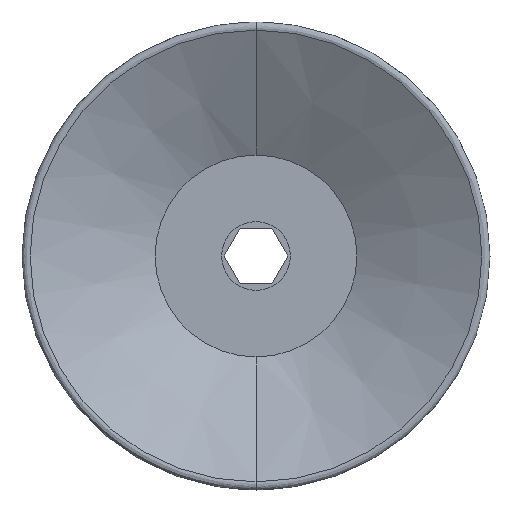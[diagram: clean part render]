
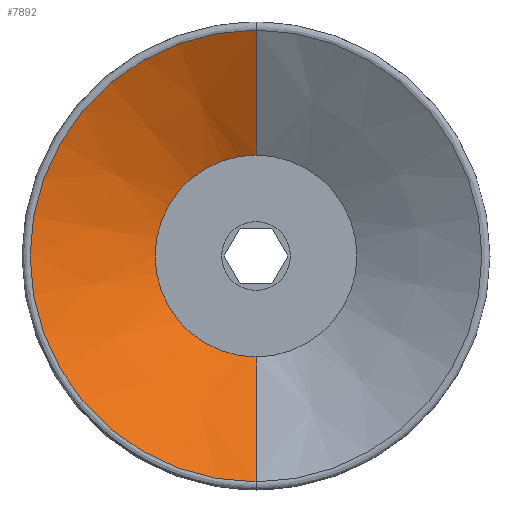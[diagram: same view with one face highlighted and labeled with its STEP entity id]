
A CAD part, front view. The second image highlights one B-rep face of the part: STEP entity #7892.
In plain terms, the highlighted conical face has half-angle 61.384 degrees and reference radius 24.613 mm.
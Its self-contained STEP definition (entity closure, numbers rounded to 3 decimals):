
#25 = CONICAL_SURFACE ( 'NONE', #5523, 24.613, 1.071 ) ;
#634 = VERTEX_POINT ( 'NONE', #8002 ) ;
#775 = ORIENTED_EDGE ( 'NONE', *, *, #10572, .F. ) ;
#986 = EDGE_LOOP ( 'NONE', ( #13277, #7545, #2622, #775 ) ) ;
#2267 = DIRECTION ( 'NONE',  ( 0., -0.479, 0.878 ) ) ;
#2369 = DIRECTION ( 'NONE',  ( 0., -1., 0. ) ) ;
#2622 = ORIENTED_EDGE ( 'NONE', *, *, #13234, .F. ) ;
#2847 = VECTOR ( 'NONE', #2267, 1000. ) ;
#2972 = VERTEX_POINT ( 'NONE', #6148 ) ;
#3492 = VERTEX_POINT ( 'NONE', #9711 ) ;
#3643 = CIRCLE ( 'NONE', #10837, 11. ) ;
#5263 = DIRECTION ( 'NONE',  ( 0., 1., 0. ) ) ;
#5523 = AXIS2_PLACEMENT_3D ( 'NONE', #11715, #11677, #11273 ) ;
#5590 = VERTEX_POINT ( 'NONE', #11700 ) ;
#5905 = CARTESIAN_POINT ( 'NONE',  ( 0., -19.927, -24.613 ) ) ;
#6148 = CARTESIAN_POINT ( 'NONE',  ( 0., -19.927, 24.613 ) ) ;
#6855 = FACE_OUTER_BOUND ( 'NONE', #986, .T. ) ;
#6985 = DIRECTION ( 'NONE',  ( 0., -0.479, -0.878 ) ) ;
#7545 = ORIENTED_EDGE ( 'NONE', *, *, #11108, .T. ) ;
#7627 = CARTESIAN_POINT ( 'NONE',  ( 0., -19.927, 24.613 ) ) ;
#7892 = ADVANCED_FACE ( 'NONE', ( #6855 ), #25, .F. ) ;
#8002 = CARTESIAN_POINT ( 'NONE',  ( 0., -12.5, -11. ) ) ;
#8649 = CIRCLE ( 'NONE', #11357, 24.613 ) ;
#8740 = CARTESIAN_POINT ( 'NONE',  ( 0., -12.5, 0. ) ) ;
#9711 = CARTESIAN_POINT ( 'NONE',  ( 0., -12.5, 11. ) ) ;
#9797 = DIRECTION ( 'NONE',  ( 0., 0., -1. ) ) ;
#10061 = LINE ( 'NONE', #5905, #12882 ) ;
#10572 = EDGE_CURVE ( 'NONE', #634, #5590, #10061, .T. ) ;
#10837 = AXIS2_PLACEMENT_3D ( 'NONE', #8740, #2369, #9797 ) ;
#11108 = EDGE_CURVE ( 'NONE', #3492, #2972, #11329, .T. ) ;
#11273 = DIRECTION ( 'NONE',  ( 0., 0., -1. ) ) ;
#11329 = LINE ( 'NONE', #7627, #2847 ) ;
#11357 = AXIS2_PLACEMENT_3D ( 'NONE', #11631, #5263, #12677 ) ;
#11631 = CARTESIAN_POINT ( 'NONE',  ( 0., -19.927, 0. ) ) ;
#11677 = DIRECTION ( 'NONE',  ( 0., -1., 0. ) ) ;
#11700 = CARTESIAN_POINT ( 'NONE',  ( 0., -19.927, -24.613 ) ) ;
#11715 = CARTESIAN_POINT ( 'NONE',  ( 0., -19.927, 0. ) ) ;
#12677 = DIRECTION ( 'NONE',  ( 0., 0., -1. ) ) ;
#12882 = VECTOR ( 'NONE', #6985, 1000. ) ;
#13234 = EDGE_CURVE ( 'NONE', #5590, #2972, #8649, .T. ) ;
#13277 = ORIENTED_EDGE ( 'NONE', *, *, #13591, .F. ) ;
#13591 = EDGE_CURVE ( 'NONE', #3492, #634, #3643, .T. ) ;
